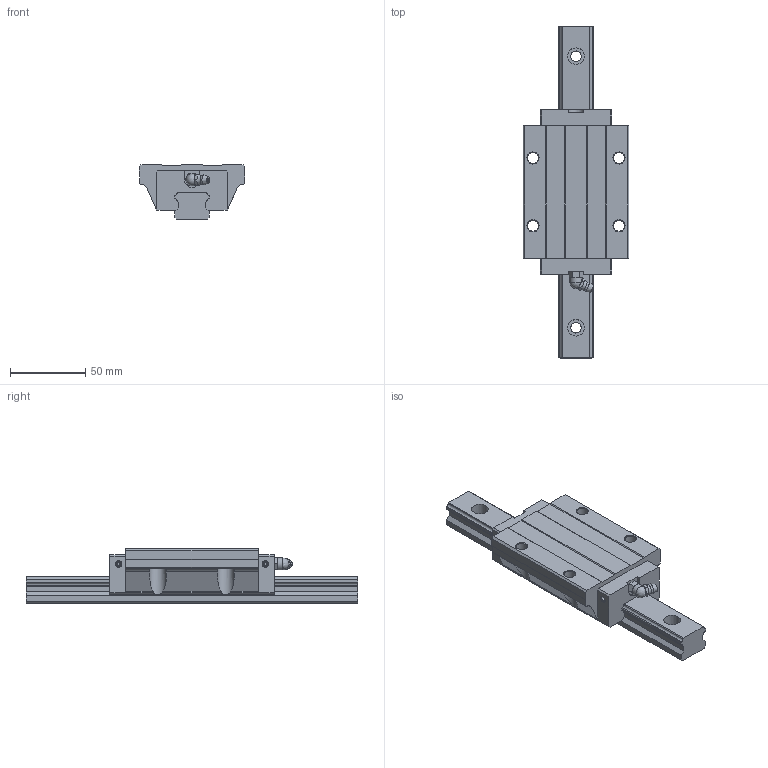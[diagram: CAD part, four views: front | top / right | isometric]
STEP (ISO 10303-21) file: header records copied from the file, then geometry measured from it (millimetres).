
FILE_DESCRIPTION(/* description */ (''),/* implementation_level */ '2;1');
FILE_NAME(/* name */ 'SME25-LEA',/* time_stamp */ '2008-10-06T09:40:24+08:00',/* author */ (''),/* organization */ (''),/* preprocessor_version */ 'ST-DEVELOPER v11',/* originating_system */ 'UGS - NX 5.0',/* authorisation */ '');
FILE_SCHEMA (('AUTOMOTIVE_DESIGN { 1 0 10303 214 1 1 1 1 }'));
Length unit declared in the file: millimetre
Products named in the file (1): SME25LEA_UG
Bounding box: 70 x 220 x 36 mm (x, y, z)
Volume: 233448.3 mm3; surface area: 48504.1 mm2
Topology: 3 solids, 3 shells, 209 faces, 555 edges, 366 vertices
Faces by surface type: plane 131, cylinder 59, cone 9, torus 7, sphere 2, bspline 1
Full cylindrical faces by diameter (mm): 2 x4, 3.3 x4, 6.5 x2, 7 x4, 7.2 x4, 8 x1, 11 x4
Entity records: 6607 total; most frequent: CARTESIAN_POINT 1238, DIRECTION 1058, ORIENTED_EDGE 1010, EDGE_CURVE 505, AXIS2_PLACEMENT_3D 364, VERTEX_POINT 352, LINE 330, VECTOR 330
